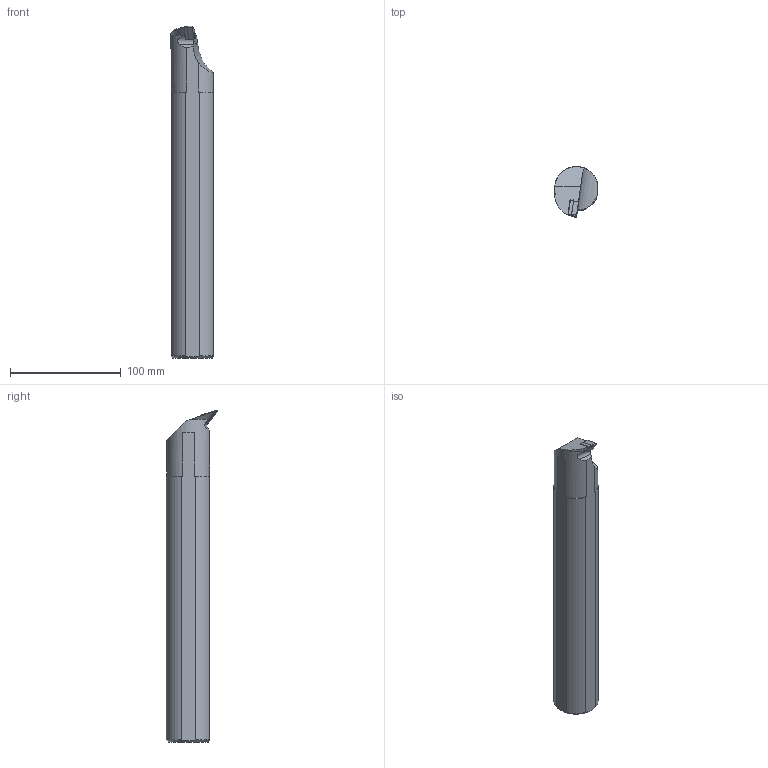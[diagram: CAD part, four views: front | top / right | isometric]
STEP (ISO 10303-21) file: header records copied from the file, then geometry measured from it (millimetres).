
FILE_DESCRIPTION(/* description */ (''),/* implementation_level */ '2;1');
FILE_NAME(/* name */ 'A40T-SVQBR16-HAAS.stp',/* time_stamp */ '2021-09-29T14:03:37+09:00',/* author */ (''),/* organization */ (''),/* preprocessor_version */ 'ST-DEVELOPER v11',/* originating_system */ 'SIEMENS UGS NX 6.0',/* authorisation */ '');
FILE_SCHEMA (('CONFIG_CONTROL_DESIGN'));
Length unit declared in the file: millimetre
Products named in the file (1): user080E646r
Bounding box: 38.7 x 46.25 x 299.63 mm (x, y, z)
Volume: 343259.1 mm3; surface area: 38847.4 mm2
Topology: 3 solids, 3 shells, 47 faces, 119 edges, 76 vertices
Faces by surface type: plane 27, cylinder 10, cone 9, bspline 1
Full cylindrical faces by diameter (mm): 6.2 x1, 6.7 x1
Entity records: 1567 total; most frequent: CARTESIAN_POINT 393, ORIENTED_EDGE 222, DIRECTION 220, EDGE_CURVE 111, AXIS2_PLACEMENT_3D 79, VERTEX_POINT 73, LINE 62, VECTOR 62
